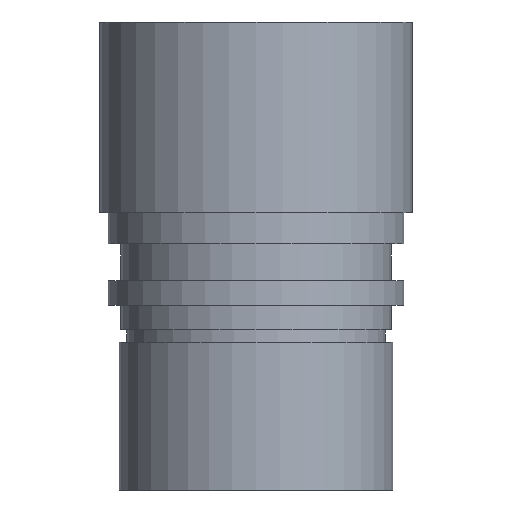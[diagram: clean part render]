
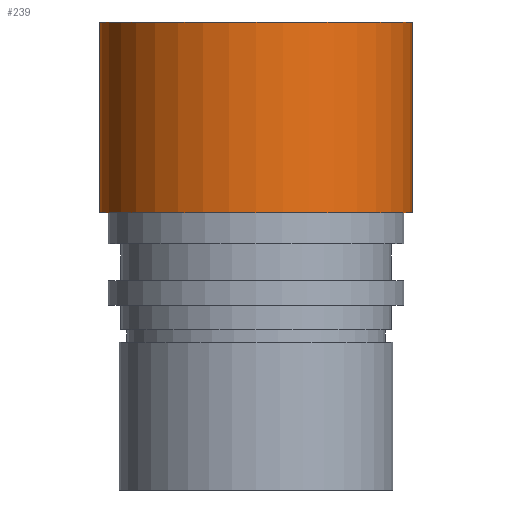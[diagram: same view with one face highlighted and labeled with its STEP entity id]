
A CAD part, front view. The second image highlights one B-rep face of the part: STEP entity #239.
In plain terms, the highlighted cylindrical face has radius 12.7 mm (diameter 25.4 mm), a full revolution.
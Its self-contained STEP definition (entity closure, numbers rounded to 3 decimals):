
#1 = CARTESIAN_POINT ( 'NONE',  ( 0., 0., 0. ) ) ;
#5 = DIRECTION ( 'NONE',  ( 1., 0., 0. ) ) ;
#6 = DIRECTION ( 'NONE',  ( 0., 0., 1. ) ) ;
#7 = CARTESIAN_POINT ( 'NONE',  ( 0., 0., -15.5 ) ) ;
#8 = DIRECTION ( 'NONE',  ( 1., 0., 0. ) ) ;
#9 = DIRECTION ( 'NONE',  ( 0., 0., 1. ) ) ;
#31 = CARTESIAN_POINT ( 'NONE',  ( 12.7, 0., 0. ) ) ;
#32 = VERTEX_POINT ( 'NONE', #31 ) ;
#33 = CARTESIAN_POINT ( 'NONE',  ( 12.7, 0., -15.5 ) ) ;
#34 = VERTEX_POINT ( 'NONE', #33 ) ;
#99 = CYLINDRICAL_SURFACE ( 'NONE', #127, 12.7 ) ;
#100 = FACE_OUTER_BOUND ( 'NONE', #554, .T. ) ;
#101 = AXIS2_PLACEMENT_3D ( 'NONE', #1, #9, #8 ) ;
#103 = FACE_OUTER_BOUND ( 'NONE', #553, .T. ) ;
#104 = AXIS2_PLACEMENT_3D ( 'NONE', #399, #398, #397 ) ;
#127 = AXIS2_PLACEMENT_3D ( 'NONE', #7, #6, #5 ) ;
#237 = EDGE_CURVE ( 'NONE', #34, #34, #263, .T. ) ;
#238 = EDGE_CURVE ( 'NONE', #32, #32, #264, .T. ) ;
#239 = ADVANCED_FACE ( 'NONE', ( #103, #100 ), #99, .T. ) ;
#263 = CIRCLE ( 'NONE', #104, 12.7 ) ;
#264 = CIRCLE ( 'NONE', #101, 12.7 ) ;
#397 = DIRECTION ( 'NONE',  ( 1., 0., 0. ) ) ;
#398 = DIRECTION ( 'NONE',  ( 0., 0., -1. ) ) ;
#399 = CARTESIAN_POINT ( 'NONE',  ( 0., 0., -15.5 ) ) ;
#477 = ORIENTED_EDGE ( 'NONE', *, *, #237, .F. ) ;
#478 = ORIENTED_EDGE ( 'NONE', *, *, #238, .F. ) ;
#553 = EDGE_LOOP ( 'NONE', ( #478 ) ) ;
#554 = EDGE_LOOP ( 'NONE', ( #477 ) ) ;
